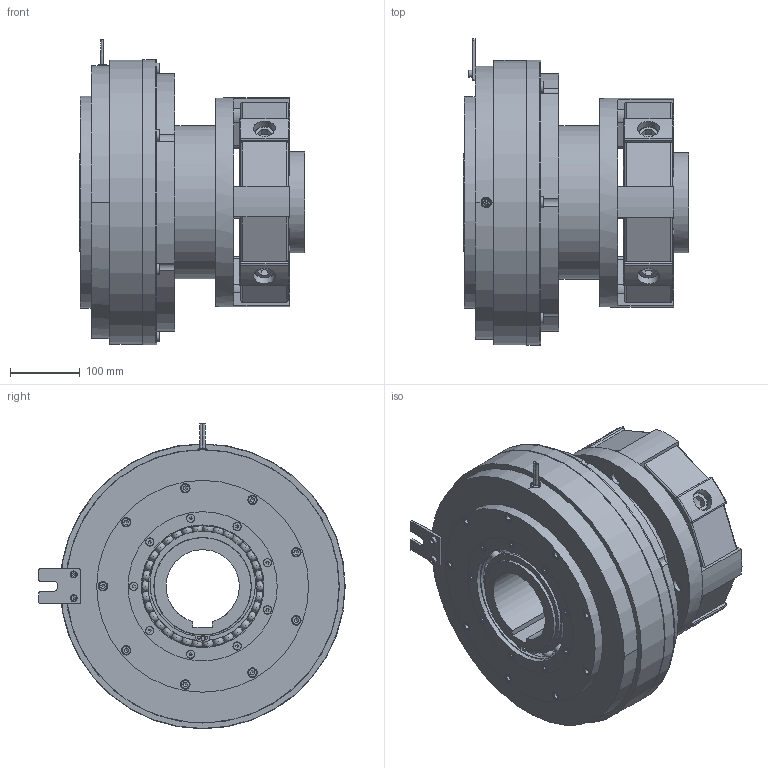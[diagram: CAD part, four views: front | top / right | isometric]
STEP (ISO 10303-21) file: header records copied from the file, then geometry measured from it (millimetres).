
FILE_DESCRIPTION(/* description */ (''),/* implementation_level */ '2;1');
FILE_NAME(/* name */ 'X:\INVENTOR\DISEGNI\08_Freni_Friz_Elettmag_Monodisco\08_26 EMSL_DF\EMSL_DF STEP\08_26_400_51 EMSL400_DF-GE@STEP.stp',/* time_stamp */ '2018-04-24T10:20:50+02:00',/* author */ ('stefano'),/* organization */ (''),/* preprocessor_version */ 'ST-DEVELOPER v17',/* originating_system */ 'Autodesk Inventor 2018',/* authorisation */ '');
FILE_SCHEMA (('AUTOMOTIVE_DESIGN { 1 0 10303 214 3 1 1 }'));
Products named in the file (1): 08_26_400_51 EMSL400_DF-GE_Substitute_2
Bounding box: 324 x 439.5 x 438.52 mm (x, y, z)
Volume: 18251836.9 mm3; surface area: 2046038.7 mm2
Topology: 1 solids, 1 shells, 1503 faces, 4610 edges, 3115 vertices
Faces by surface type: plane 582, cylinder 553, torus 163, cone 119, sphere 83, bspline 3
Full cylindrical faces by diameter (mm): 3 x12, 4 x4, 7 x8, 8.376 x18, 10 x2, 10.106 x6, 10.5 x8, 11.34 x9, 12 x9, 13 x9, 13.5 x9, 13.835 x6, 15 x1, 16 x22, 16.5 x8, 17.294 x8, 17.8 x12, 18 x18, 30 x8, 31 x8, 65 x6, 136 x2, 140 x5, 145 x1, 146 x1, 156 x8, 163 x1, 174 x6, 176 x1, 178 x1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
Entity records: 61991 total; most frequent: CARTESIAN_POINT 19750, DIRECTION 8861, ORIENTED_EDGE 8844, EDGE_CURVE 4422, AXIS2_PLACEMENT_3D 3682, VERTEX_POINT 3115, CIRCLE 2117, EDGE_LOOP 1953
